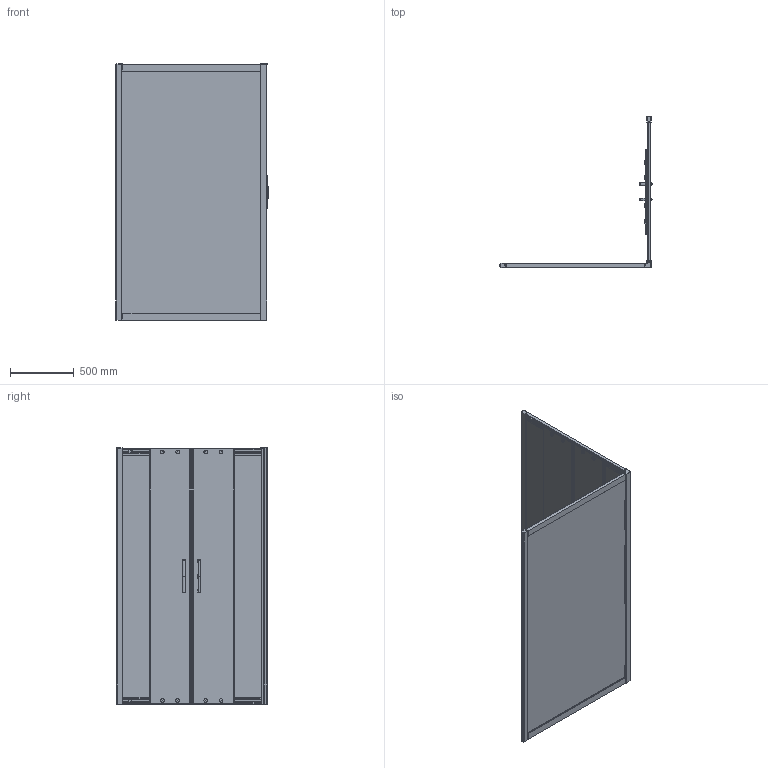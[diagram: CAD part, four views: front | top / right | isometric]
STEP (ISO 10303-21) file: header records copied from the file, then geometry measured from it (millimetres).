
FILE_DESCRIPTION(/* description */ (''),/* implementation_level */ '2;1');
FILE_NAME(/* name */ 'D:\Работа\Сергей\! Готово\Документация и модели всех серий\KUBELE динамические модели и набор документов\19 NEW\KÜBELE DE019S4\KÜBELE DE019S4-3D.stp',/* time_stamp */ '2019-06-16T20:55:34+03:00',/* author */ ('User'),/* organization */ (''),/* preprocessor_version */ 'ST-DEVELOPER v15.2',/* originating_system */ 'Autodesk Inventor 2014',/* authorisation */ '');
FILE_SCHEMA (('CONFIG_CONTROL_DESIGN'));
Products named in the file (1): KÜBELE DE019S4-3D
Bounding box: 1189.52 x 1182.7 x 2002.5 mm (x, y, z)
Volume: 41340947.8 mm3; surface area: 11242724.6 mm2
Topology: 2 solids, 41 shells, 2719 faces, 7411 edges, 4755 vertices
Faces by surface type: plane 1443, cylinder 788, bspline 201, torus 127, cone 96, sphere 64
Full cylindrical faces by diameter (mm): 3 x4, 3.7 x24, 8.4 x8, 9.5 x16, 10 x4, 13.2 x8, 14 x16, 16.5 x16, 18 x16, 19 x24, 22 x8, 28.7 x8, 30 x12
Entity records: 105495 total; most frequent: CARTESIAN_POINT 35203, ORIENTED_EDGE 14220, DIRECTION 13713, EDGE_CURVE 7099, AXIS2_PLACEMENT_3D 4686, VERTEX_POINT 4666, LINE 4341, VECTOR 4341
